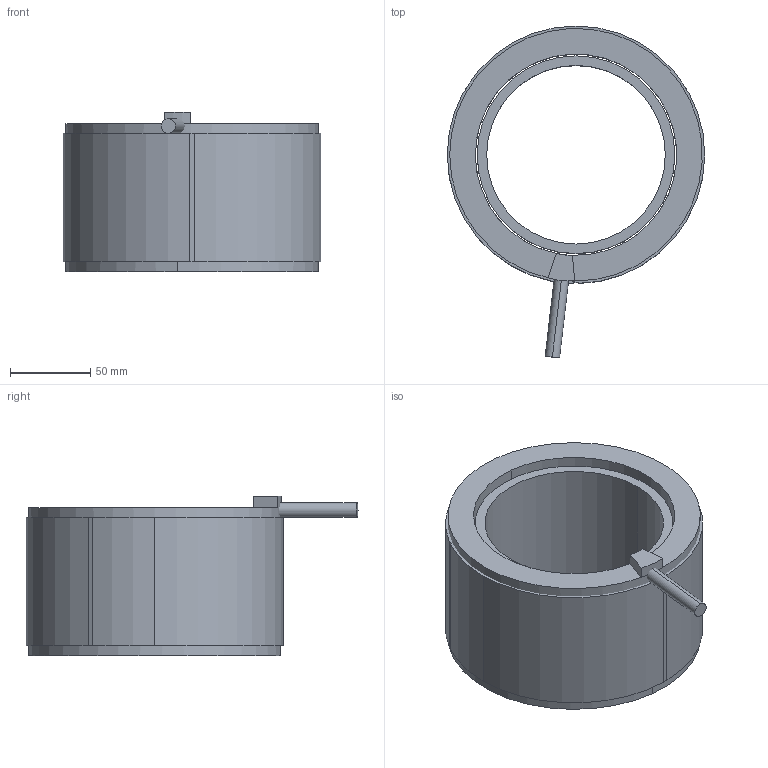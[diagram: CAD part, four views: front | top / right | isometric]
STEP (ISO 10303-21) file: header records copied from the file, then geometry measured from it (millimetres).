
FILE_DESCRIPTION (( 'STEP AP203' ), '1' );
FILE_NAME ('TM160-92 KIT 3D.STEP', '2021-06-21T07:11:09', ( '' ), ( '' ), 'SwSTEP 2.0', 'SolidWorks 2021', '' );
FILE_SCHEMA (( 'CONFIG_CONTROL_DESIGN' ));
Length unit declared in the file: millimetre
Products named in the file (1): TM160-92 KIT 3D
Bounding box: 160 x 206.33 x 99 mm (x, y, z)
Volume: 1020842.7 mm3; surface area: 246724.1 mm2
Topology: 4 solids, 4 shells, 155 faces, 436 edges, 288 vertices
Faces by surface type: plane 84, cylinder 71
Entity records: 5123 total; most frequent: DIRECTION 894, CARTESIAN_POINT 880, ORIENTED_EDGE 872, EDGE_CURVE 436, AXIS2_PLACEMENT_3D 302, LINE 290, VECTOR 290, VERTEX_POINT 288
